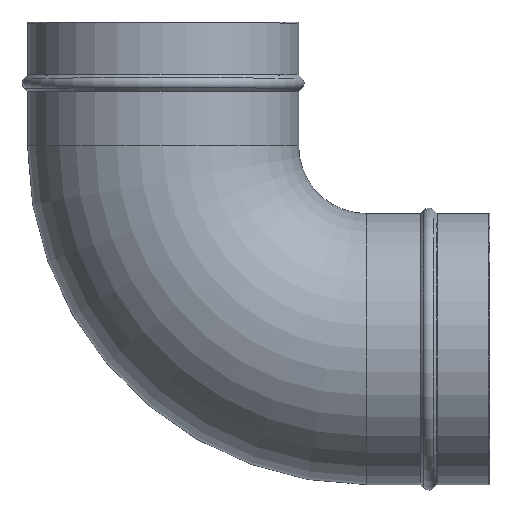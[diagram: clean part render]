
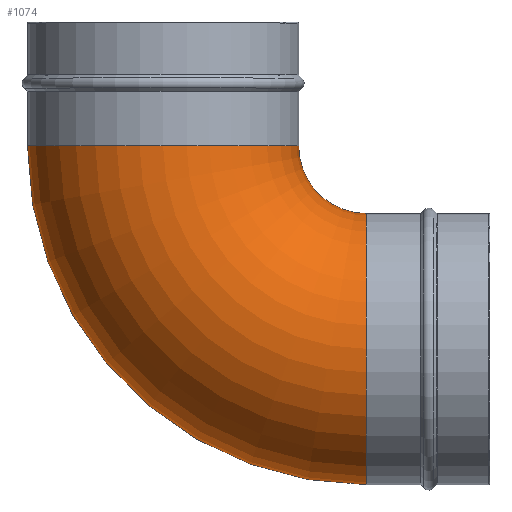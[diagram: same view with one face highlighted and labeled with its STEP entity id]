
A CAD part, top view. The second image highlights one B-rep face of the part: STEP entity #1074.
In plain terms, the highlighted toroidal (fillet/blend) face has major radius 115 mm and minor radius 76.75 mm.
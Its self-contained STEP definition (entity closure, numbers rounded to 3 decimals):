
#188=CARTESIAN_POINT('',(115.,0.,0.));
#189=DIRECTION('',(1.,0.,0.));
#190=DIRECTION('',(0.,1.,0.));
#191=AXIS2_PLACEMENT_3D('',#188,#189,#190);
#273=CARTESIAN_POINT('',(115.,115.,0.));
#274=DIRECTION('',(0.,0.,1.));
#275=DIRECTION('',(-1.,0.,0.));
#276=AXIS2_PLACEMENT_3D('',#273,#274,#275);
#373=CARTESIAN_POINT('',(0.,115.,0.));
#374=DIRECTION('',(0.,-1.,0.));
#375=DIRECTION('',(1.,0.,0.));
#376=AXIS2_PLACEMENT_3D('',#373,#374,#375);
#381=CARTESIAN_POINT('',(115.,115.,0.));
#382=DIRECTION('',(0.,0.,1.));
#383=DIRECTION('',(-1.,0.,0.));
#384=AXIS2_PLACEMENT_3D('',#381,#382,#383);
#673=CARTESIAN_POINT('',(76.75,115.,0.));
#674=CARTESIAN_POINT('',(-76.75,115.,0.));
#675=VERTEX_POINT('',#673);
#676=VERTEX_POINT('',#674);
#681=CARTESIAN_POINT('',(115.,76.75,0.));
#682=CARTESIAN_POINT('',(115.,-76.75,0.));
#683=VERTEX_POINT('',#681);
#684=VERTEX_POINT('',#682);
#1063=CARTESIAN_POINT('',(115.,115.,0.));
#1064=DIRECTION('',(0.,0.,1.));
#1065=DIRECTION('',(1.,0.,0.));
#1066=AXIS2_PLACEMENT_3D('',#1063,#1064,#1065);
#1067=TOROIDAL_SURFACE('',#1066,115.,76.75);
#1068=ORIENTED_EDGE('',*,*,#1043,.F.);
#1069=ORIENTED_EDGE('',*,*,#971,.T.);
#1070=ORIENTED_EDGE('',*,*,#914,.T.);
#1071=ORIENTED_EDGE('',*,*,#968,.F.);
#1072=EDGE_LOOP('',(#1068,#1069,#1070,#1071));
#1073=FACE_OUTER_BOUND('',#1072,.F.);
#192=CIRCLE('',#191,76.75);
#277=CIRCLE('',#276,191.75);
#377=CIRCLE('',#376,76.75);
#385=CIRCLE('',#384,38.25);
#914=EDGE_CURVE('',#683,#684,#192,.T.);
#968=EDGE_CURVE('',#676,#684,#277,.T.);
#971=EDGE_CURVE('',#675,#683,#385,.T.);
#1043=EDGE_CURVE('',#675,#676,#377,.T.);
#1074=ADVANCED_FACE('',(#1073),#1067,.T.);
